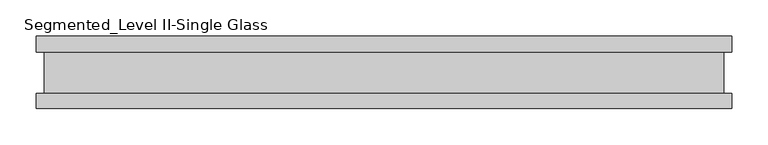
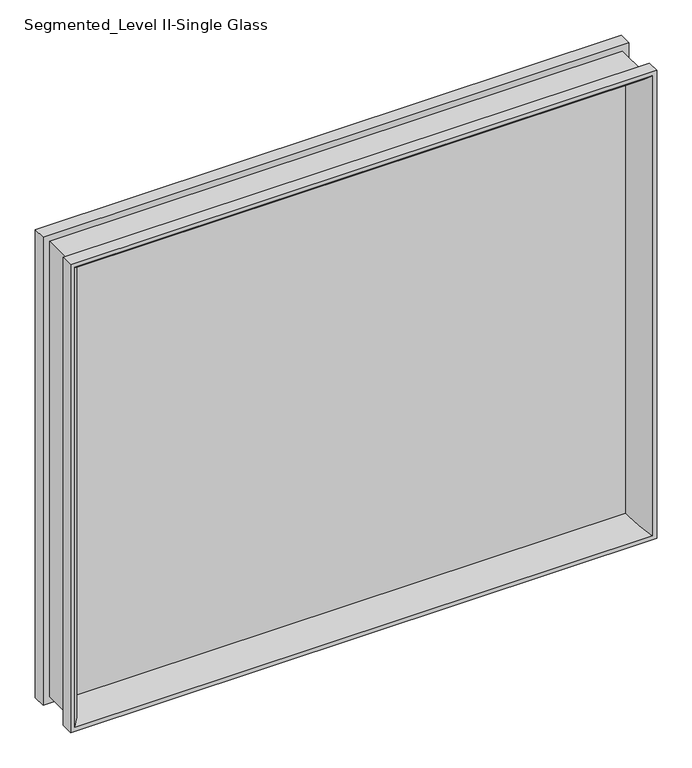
"""IFC4 building model written with IfcOpenShell, lengths in millimetres: proxy geometry, Panel-Fascia-Teknion-Altos-Single_Glass : Segmented_Level II-Single Glass."""

import ifcopenshell
import ifcopenshell.guid

model = None  # the IFC model being written
_history = None  # IfcOwnerHistory: only IFC2X3 demands one
_inside = {}  # id of a spatial element -> (the spatial element, [elements in it])
_under = {}  # id of a project, library or spatial element -> (it, [spatial elements below it])
_declared = {}  # id of a project -> (the project, [libraries it declares])
_typed = {}  # id of a type object -> (the type object, [elements of that type])
_made_of = {}  # id of a material, layer set ... -> (it, [elements and type objects made of it])


def new_model(schema):
    """Start an empty IFC model of exactly this schema.

    Asked for "IFC4X3", IfcOpenShell would pick the latest addendum, in which some entities
    have other attributes; the version numbers below select the first issue.
    IFC2X3 requires an IfcOwnerHistory on every rooted entity: one is made here for all.
    """
    global model, _history
    if schema == "IFC4X3":
        model = ifcopenshell.file(schema_version=(4, 3, 0, 0))
    else:
        model = ifcopenshell.file(schema=schema)
    _inside.clear()
    _under.clear()
    _declared.clear()
    _typed.clear()
    _made_of.clear()
    _history = None
    if model.schema == "IFC2X3":
        org = make("IfcOrganization", Name="unknown")
        user = make(
            "IfcPersonAndOrganization",
            ThePerson=make("IfcPerson", FamilyName="unknown"),
            TheOrganization=org,
        )
        app = make(
            "IfcApplication",
            ApplicationDeveloper=org,
            Version="unknown",
            ApplicationFullName="unknown",
            ApplicationIdentifier="unknown",
        )
        _history = make(
            "IfcOwnerHistory",
            OwningUser=user,
            OwningApplication=app,
            ChangeAction="ADDED",
            CreationDate=0,
        )
    return model


def make(cls, **values):
    """One entity of the class cls with the attributes given. An attribute that is None is left unset."""
    return model.create_entity(
        cls, **{name: value for name, value in values.items() if value is not None}
    )


def rooted(cls, **values):
    """An entity with a GlobalId (a new one), such as an element, a storey or a relation."""
    return make(cls, GlobalId=ifcopenshell.guid.new(), OwnerHistory=_history, **values)


def si_unit(unit_type, name, prefix=None):
    """IfcSIUnit, for example si_unit("LENGTHUNIT", "METRE", prefix="MILLI")."""
    return make("IfcSIUnit", UnitType=unit_type, Prefix=prefix, Name=name)


def assignment(units):
    """IfcUnitAssignment: the units of a project."""
    return None if units is None else make("IfcUnitAssignment", Units=units)


def point(xyz):
    """IfcCartesianPoint."""
    return None if xyz is None else make("IfcCartesianPoint", Coordinates=xyz)


def direction(xyz):
    """IfcDirection."""
    return None if xyz is None else make("IfcDirection", DirectionRatios=xyz)


def frame(location, z_axis=None, x_axis=None):
    """IfcAxis2Placement3D, a coordinate frame: its origin and axes. An axis left out is left unset."""
    return make(
        "IfcAxis2Placement3D",
        Location=point(location),
        Axis=direction(z_axis),
        RefDirection=direction(x_axis),
    )


def origin():
    """The frame at (0, 0, 0) with its axes left unset."""
    return frame((0.0, 0.0, 0.0))


def place(relative_to, where):
    """IfcLocalPlacement: puts the frame where relative to a parent placement (None: the world)."""
    return make(
        "IfcLocalPlacement", PlacementRelTo=relative_to, RelativePlacement=where
    )


def context(
    kind, dimensions, precision=None, world=None, true_north=None, identifier=None
):
    """IfcGeometricRepresentationContext, for example the 3D "Model" context."""
    return make(
        "IfcGeometricRepresentationContext",
        ContextIdentifier=identifier,
        ContextType=kind,
        CoordinateSpaceDimension=dimensions,
        Precision=precision,
        WorldCoordinateSystem=world,
        TrueNorth=true_north,
    )


def project(units=None, contexts=None):
    """IfcProject with its units and contexts."""
    return rooted(
        "IfcProject",
        Name="project",
        RepresentationContexts=contexts,
        UnitsInContext=assignment(units),
    )


def spatial(cls, under=None, at=None, **own):
    """A site, building, storey or space (cls), placed at a placement, below another one or the project."""
    s = rooted(cls, ObjectPlacement=at, **own)
    if under is not None:
        _under.setdefault(under.id(), (under, []))[1].append(s)
    return s


def polyline(points):
    """IfcPolyline through the points."""
    return make("IfcPolyline", Points=[point(p) for p in points])


def ellipse_curve(where, semi_axis1, semi_axis2):
    """IfcEllipse in the frame where."""
    return make(
        "IfcEllipse", Position=where, SemiAxis1=semi_axis1, SemiAxis2=semi_axis2
    )


def outline(outer, holes=None, kind="AREA"):
    """IfcArbitraryClosedProfileDef: a profile drawn as a closed curve; with holes, ...WithVoids."""
    if holes is None:
        return make("IfcArbitraryClosedProfileDef", ProfileType=kind, OuterCurve=outer)
    return make(
        "IfcArbitraryProfileDefWithVoids",
        ProfileType=kind,
        OuterCurve=outer,
        InnerCurves=holes,
    )


def extrude(swept, where, along, depth):
    """IfcExtrudedAreaSolid: the profile swept, set in the frame where, extruded along a direction by depth."""
    return make(
        "IfcExtrudedAreaSolid",
        SweptArea=swept,
        Position=where,
        ExtrudedDirection=direction(along),
        Depth=depth,
    )


def shape(context_of_items, identifier, shape_type, items):
    """IfcShapeRepresentation: the items that make up one representation, for example the "Body"."""
    return make(
        "IfcShapeRepresentation",
        ContextOfItems=context_of_items,
        RepresentationIdentifier=identifier,
        RepresentationType=shape_type,
        Items=items,
    )


def source(mapping_origin, context_of_items, identifier, shape_type, items):
    """IfcRepresentationMap: a shape defined once, which mapped items show again and again."""
    return make(
        "IfcRepresentationMap",
        MappingOrigin=mapping_origin,
        MappedRepresentation=shape(context_of_items, identifier, shape_type, items),
    )


def transform(
    local_origin,
    x_axis=None,
    y_axis=None,
    z_axis=None,
    scale=None,
    scale2=None,
    scale3=None,
    uniform=True,
):
    """IfcCartesianTransformationOperator3D, or its non-uniform kind. x_axis, y_axis, z_axis: its Axis1, 2, 3."""
    if uniform:
        return make(
            "IfcCartesianTransformationOperator3D",
            Axis1=direction(x_axis),
            Axis2=direction(y_axis),
            LocalOrigin=point(local_origin),
            Scale=scale,
            Axis3=direction(z_axis),
        )
    return make(
        "IfcCartesianTransformationOperator3DnonUniform",
        Axis1=direction(x_axis),
        Axis2=direction(y_axis),
        LocalOrigin=point(local_origin),
        Scale=scale,
        Axis3=direction(z_axis),
        Scale2=scale2,
        Scale3=scale3,
    )


def mapped(mapping_source, mapping_target):
    """IfcMappedItem: shows the shape of a source again, moved by a transform."""
    return make(
        "IfcMappedItem", MappingSource=mapping_source, MappingTarget=mapping_target
    )


def made_of(thing, what):
    """Note that an element or type object is made of a material, layer set ...; save() writes the relation."""
    if what is not None:
        _made_of.setdefault(what.id(), (what, []))[1].append(thing)
    return thing


def element(
    cls,
    number,
    at=None,
    inside=None,
    cuts=None,
    type_object=None,
    material=None,
    context=None,
    identifier="Body",
    shape_type=None,
    held_by="IfcProductDefinitionShape",
    body=None,
    shapes=None,
    **own,
):
    """One element of the class cls, such as IfcWall. Its Tag is "e" and its number.

    at: its placement. inside: the storey or other place that contains it. cuts: it is an
    opening in that element (IfcRelVoidsElement). A single representation is given by context,
    identifier, shape_type and body (its items); several are given by shapes. held_by: the class
    of the entity that holds the representations. save() writes the other relations.
    """
    e = rooted(cls, Tag="e%d" % number, ObjectPlacement=at, **own)
    if body is not None:
        shapes = [shape(context, identifier, shape_type, body)]
    if shapes is not None:
        e.Representation = make(held_by, Representations=shapes)
    if inside is not None:
        _inside.setdefault(inside.id(), (inside, []))[1].append(e)
    if cuts is not None:
        rooted(
            "IfcRelVoidsElement", RelatingBuildingElement=cuts, RelatedOpeningElement=e
        )
    if type_object is not None:
        _typed.setdefault(type_object.id(), (type_object, []))[1].append(e)
    return made_of(e, material)


def aggregate(whole, parts):
    """IfcRelAggregates: a whole, such as a stair, and the parts it consists of."""
    return rooted("IfcRelAggregates", RelatingObject=whole, RelatedObjects=parts)


def save(model, path):
    """Write the relations noted so far, then the file.

    IfcRelAggregates (storeys below a building ...), IfcRelContainedInSpatialStructure (elements
    in a storey), IfcRelDefinesByType, IfcRelAssociatesMaterial and IfcRelDeclares: one each for
    every whole, place, type object, material and project.
    """
    for whole, parts in _under.values():
        aggregate(whole, parts)
    for where, things in _inside.values():
        rooted(
            "IfcRelContainedInSpatialStructure",
            RelatedElements=things,
            RelatingStructure=where,
        )
    for kind, things in _typed.values():
        rooted("IfcRelDefinesByType", RelatedObjects=things, RelatingType=kind)
    for what, things in _made_of.values():
        rooted("IfcRelAssociatesMaterial", RelatedObjects=things, RelatingMaterial=what)
    for by, libraries in _declared.values():
        rooted("IfcRelDeclares", RelatingContext=by, RelatedDefinitions=libraries)
    model.write(path)


def plane_surface(at):
    """IfcPlane: the flat surface through the origin of the frame at, square to its z axis."""
    return make("IfcPlane", Position=at)


def cylinder_surface(at, radius):
    """IfcCylindricalSurface: all points at the distance radius from the z axis of the frame at."""
    return make("IfcCylindricalSurface", Position=at, Radius=radius)


def advanced_brep(points, edges, surfaces, faces):
    """IfcAdvancedBrep: a solid bounded by faces that lie on surfaces and meet in shared edges.

    An edge is (start, end): straight between two places in points (the first is 0);
    or (start, end, curve); or (start, end, curve, False) where it runs against its curve.
    A face is (place in surfaces, loops), or (place, loops, False) where it looks against
    its surface's normal. A loop lists edges by number (the first is 1), with a minus sign
    where the edge is run from its end to its start. The first loop is the outer one.
    """
    corners = [point(p) for p in points]
    vertices = [make("IfcVertexPoint", VertexGeometry=c) for c in corners]
    made = []
    for start, end, *more in edges:
        made.append(
            make(
                "IfcEdgeCurve",
                EdgeStart=vertices[start],
                EdgeEnd=vertices[end],
                EdgeGeometry=more[0] if more else make("IfcPolyline", Points=[corners[start], corners[end]]),
                SameSense=more[1] if len(more) > 1 else True,
            )
        )
    hull = []
    for where, loops, *sense in faces:
        bounds = []
        for j, loop in enumerate(loops):
            ring = [make("IfcOrientedEdge", EdgeElement=made[abs(k) - 1], Orientation=k > 0) for k in loop]
            bounds.append(
                make(
                    "IfcFaceOuterBound" if j == 0 else "IfcFaceBound",
                    Bound=make("IfcEdgeLoop", EdgeList=ring),
                    Orientation=True,
                )
            )
        hull.append(make("IfcAdvancedFace", Bounds=bounds, FaceSurface=surfaces[where], SameSense=sense[0] if sense else True))
    return make("IfcAdvancedBrep", Outer=make("IfcClosedShell", CfsFaces=hull))


def segmented_level_ii_single_glass_8e03ea76(model_context):
    return source(origin(), model_context, "Body", "SolidModel", [
        advanced_brep(
        [(454.4778894, 5.0827449, 787.2123332), (472.4327398, 50.0558594, 805.1671836), (472.4327398, 50.0558594, 10.1728164), (454.4778894, 5.0827449, 28.1276668), (464.9680805, -5.0827449, 797.7025243), (464.9680805, 5.0827449, 797.7025243), (464.9680805, 5.0827449, 17.6374757), (464.9680805, -5.0827449, 17.6374757), (472.4327398, -50.0558594, 805.1671836), (454.4778894, -5.0827449, 787.2123332), (454.4778894, -5.0827449, 28.1276668), (472.4327398, -50.0558594, 10.1728164), (479.4305563, -28.8801202, 812.165), (479.4305563, -50.0558594, 812.165), (479.4305563, -50.0558594, 3.175), (479.4305563, -28.8801202, 3.175), (468.6055563, 28.2698798, 801.3400001), (468.6055563, -28.8801202, 801.3400001), (468.6055563, -28.8801202, 13.9999999), (468.6055563, 28.2698798, 13.9999999), (479.4305563, 50.0558594, 812.165), (479.4305563, 28.2698798, 812.165), (479.4305563, 28.2698798, 3.175), (479.4305563, 50.0558594, 3.175), (-472.4327398, 50.0558594, 10.1728164), (-454.4778894, 5.0827449, 28.1276668), (-464.9680805, 5.0827449, 17.6374757), (-464.9680805, -5.0827449, 17.6374757), (-454.4778894, -5.0827449, 28.1276668), (-472.4327398, -50.0558594, 10.1728164), (-479.4305562, -50.0558594, 3.175), (-479.4305562, -28.8801202, 3.175), (-468.6055563, -28.8801202, 13.9999999), (-468.6055563, 28.2698798, 13.9999999), (-479.4305562, 28.2698798, 3.175), (-479.4305562, 50.0558594, 3.175), (-472.4327398, 50.0558594, 805.1671836), (-454.4778894, 5.0827449, 787.2123332), (-464.9680805, 5.0827449, 797.7025243), (-464.9680805, -5.0827449, 797.7025243), (-454.4778894, -5.0827449, 787.2123332), (-472.4327398, -50.0558594, 805.1671836), (-479.4305562, -50.0558594, 812.165), (-479.4305562, -28.8801202, 812.165), (-468.6055563, -28.8801202, 801.3400001), (-468.6055563, 28.2698798, 801.3400001), (-479.4305562, 28.2698798, 812.165), (-479.4305562, 50.0558594, 812.165)],
        [
            (0, 1, ellipse_curve(frame((506.5641268, 10.3587469, 839.2985705), z_axis=(0.7071067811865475, 0.0, -0.7071067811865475), x_axis=(0.7071067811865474, 0.0, 0.7071067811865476)), 74.0379946, 52.352768)),
            (1, 2),
            (2, 3, ellipse_curve(frame((506.5641268, 10.3587469, -23.9585705), z_axis=(0.7071067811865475, 0.0, 0.7071067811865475), x_axis=(-0.7071067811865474, 0.0, 0.7071067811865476)), 74.0379946, 52.352768)),
            (3, 0),
            (4, 5),
            (5, 6),
            (6, 7),
            (7, 4),
            (8, 9, ellipse_curve(frame((506.5641268, -10.3587469, 839.2985705), z_axis=(0.7071067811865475, 0.0, -0.7071067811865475), x_axis=(0.7071067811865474, 0.0, 0.7071067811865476)), 74.0379946, 52.352768)),
            (9, 10),
            (10, 11, ellipse_curve(frame((506.5641268, -10.3587469, -23.9585705), z_axis=(0.7071067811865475, 0.0, 0.7071067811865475), x_axis=(-0.7071067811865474, 0.0, 0.7071067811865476)), 74.0379946, 52.352768)),
            (11, 8),
            (12, 13),
            (13, 14),
            (14, 15),
            (15, 12),
            (16, 17),
            (17, 18),
            (18, 19),
            (19, 16),
            (20, 21),
            (21, 22),
            (22, 23),
            (23, 20),
            (2, 24),
            (24, 25, ellipse_curve(frame((-506.5641268, 10.3587469, -23.9585705), z_axis=(0.7071067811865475, 0.0, -0.7071067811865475), x_axis=(0.7071067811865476, 0.0, 0.7071067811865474)), 74.0379946, 52.352768)),
            (25, 3),
            (6, 26),
            (26, 27),
            (27, 7),
            (10, 28),
            (28, 29, ellipse_curve(frame((-506.5641268, -10.3587469, -23.9585705), z_axis=(0.7071067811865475, 0.0, -0.7071067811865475), x_axis=(0.7071067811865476, 0.0, 0.7071067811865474)), 74.0379946, 52.352768)),
            (29, 11),
            (14, 30),
            (30, 31),
            (31, 15),
            (18, 32),
            (32, 33),
            (33, 19),
            (22, 34),
            (34, 35),
            (35, 23),
            (24, 36),
            (36, 37, ellipse_curve(frame((-506.5641268, 10.3587469, 839.2985705), z_axis=(-0.7071067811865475, 0.0, -0.7071067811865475), x_axis=(0.7071067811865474, 0.0, -0.7071067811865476)), 74.0379946, 52.352768)),
            (37, 25),
            (26, 38),
            (38, 39),
            (39, 27),
            (28, 40),
            (40, 41, ellipse_curve(frame((-506.5641268, -10.3587469, 839.2985705), z_axis=(-0.7071067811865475, 0.0, -0.7071067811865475), x_axis=(0.7071067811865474, 0.0, -0.7071067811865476)), 74.0379946, 52.352768)),
            (41, 29),
            (30, 42),
            (42, 43),
            (43, 31),
            (32, 44),
            (44, 45),
            (45, 33),
            (34, 46),
            (46, 47),
            (47, 35),
            (47, 20),
            (1, 36),
            (0, 37),
            (5, 38),
            (4, 39),
            (9, 40),
            (8, 41),
            (13, 42),
            (12, 43),
            (17, 44),
            (16, 45),
            (21, 46),
        ],
        [
            cylinder_surface(frame((506.5641268, 10.3587469, 812.165), z_axis=(0.0, 0.0, 1.0), x_axis=(1.0, 0.0, 0.0)), 52.352768),
            plane_surface(frame((464.9680805, 5.0827449, 797.7025243), z_axis=(-1.0, 0.0, 0.0), x_axis=(0.0, 0.0, -1.0))),
            cylinder_surface(frame((506.5641268, -10.3587469, 812.165), z_axis=(0.0, 0.0, 1.0), x_axis=(1.0, 0.0, 0.0)), 52.352768),
            plane_surface(frame((479.4305563, -50.0558594, 812.165), z_axis=(1.0, 0.0, 0.0), x_axis=(0.0, 0.0, -1.0))),
            plane_surface(frame((468.6055563, -28.8801202, 801.3400001), z_axis=(1.0, 0.0, 0.0), x_axis=(0.0, 0.0, -1.0))),
            plane_surface(frame((479.4305563, 28.2698798, 812.165), z_axis=(1.0, 0.0, 0.0), x_axis=(0.0, 0.0, -1.0))),
            cylinder_surface(frame((479.4305563, 10.3587469, -23.9585705), z_axis=(1.0, 0.0, 0.0), x_axis=(0.0, 0.0, -1.0)), 52.352768),
            plane_surface(frame((464.9680805, 5.0827449, 17.6374757), z_axis=(0.0, 0.0, 1.0), x_axis=(-1.0, 0.0, 0.0))),
            cylinder_surface(frame((479.4305563, -10.3587469, -23.9585705), z_axis=(1.0, 0.0, 0.0), x_axis=(0.0, 0.0, -1.0)), 52.352768),
            plane_surface(frame((479.4305563, -50.0558594, 3.175), z_axis=(0.0, 0.0, -1.0), x_axis=(-1.0, 0.0, 0.0))),
            plane_surface(frame((468.6055563, -28.8801202, 13.9999999), z_axis=(0.0, 0.0, -1.0), x_axis=(-1.0, 0.0, 0.0))),
            plane_surface(frame((479.4305563, 28.2698798, 3.175), z_axis=(0.0, 0.0, -1.0), x_axis=(-1.0, 0.0, 0.0))),
            cylinder_surface(frame((-506.5641268, 10.3587469, 3.175), z_axis=(0.0, 0.0, -1.0), x_axis=(-1.0, 0.0, 0.0)), 52.352768),
            plane_surface(frame((-464.9680805, 5.0827449, 17.6374757), z_axis=(1.0, 0.0, 0.0), x_axis=(0.0, 0.0, 1.0))),
            cylinder_surface(frame((-506.5641268, -10.3587469, 3.175), z_axis=(0.0, 0.0, -1.0), x_axis=(-1.0, 0.0, 0.0)), 52.352768),
            plane_surface(frame((-479.4305562, -50.0558594, 3.175), z_axis=(-1.0, 0.0, 0.0), x_axis=(0.0, 0.0, 1.0))),
            plane_surface(frame((-468.6055563, -28.8801202, 13.9999999), z_axis=(-1.0, 0.0, 0.0), x_axis=(0.0, 0.0, 1.0))),
            plane_surface(frame((-479.4305562, 28.2698798, 3.175), z_axis=(-1.0, 0.0, 0.0), x_axis=(0.0, 0.0, 1.0))),
            plane_surface(frame((-479.4305562, 50.0558594, 812.165), z_axis=(0.0, 1.0, 0.0), x_axis=(1.0, 0.0, 0.0))),
            cylinder_surface(frame((-479.4305562, 10.3587469, 839.2985705), z_axis=(-1.0, 0.0, 0.0), x_axis=(0.0, 0.0, 1.0)), 52.352768),
            plane_surface(frame((-454.4778894, 5.0827449, 787.2123332), z_axis=(0.0, -1.0, 0.0), x_axis=(1.0, 0.0, 0.0))),
            plane_surface(frame((-464.9680805, 5.0827449, 797.7025243), z_axis=(0.0, 0.0, -1.0), x_axis=(1.0, 0.0, 0.0))),
            plane_surface(frame((-464.9680805, -5.0827449, 797.7025243), z_axis=(0.0, 1.0, 0.0), x_axis=(1.0, 0.0, 0.0))),
            cylinder_surface(frame((-479.4305562, -10.3587469, 839.2985705), z_axis=(-1.0, 0.0, 0.0), x_axis=(0.0, 0.0, 1.0)), 52.352768),
            plane_surface(frame((-472.4327398, -50.0558594, 805.1671836), z_axis=(0.0, -1.0, 0.0), x_axis=(1.0, 0.0, 0.0))),
            plane_surface(frame((-479.4305562, -50.0558594, 812.165), z_axis=(0.0, 0.0, 1.0), x_axis=(1.0, 0.0, 0.0))),
            plane_surface(frame((-479.4305562, -28.8801202, 812.165), z_axis=(0.0, 1.0, 0.0), x_axis=(1.0, 0.0, 0.0))),
            plane_surface(frame((-468.6055563, -28.8801202, 801.3400001), z_axis=(0.0, 0.0, 1.0), x_axis=(1.0, 0.0, 0.0))),
            plane_surface(frame((-468.6055563, 28.2698798, 801.3400001), z_axis=(0.0, -1.0, 0.0), x_axis=(1.0, 0.0, 0.0))),
            plane_surface(frame((-479.4305562, 28.2698798, 812.165), z_axis=(0.0, 0.0, 1.0), x_axis=(1.0, 0.0, 0.0))),
        ],
        [
            (0, [[1, 2, 3, 4]]),
            (1, [[5, 6, 7, 8]]),
            (2, [[9, 10, 11, 12]]),
            (3, [[13, 14, 15, 16]]),
            (4, [[17, 18, 19, 20]]),
            (5, [[21, 22, 23, 24]]),
            (6, [[-3, 25, 26, 27]]),
            (7, [[-7, 28, 29, 30]]),
            (8, [[-11, 31, 32, 33]]),
            (9, [[-15, 34, 35, 36]]),
            (10, [[-19, 37, 38, 39]]),
            (11, [[-23, 40, 41, 42]]),
            (12, [[-26, 43, 44, 45]]),
            (13, [[-29, 46, 47, 48]]),
            (14, [[-32, 49, 50, 51]]),
            (15, [[-35, 52, 53, 54]]),
            (16, [[-38, 55, 56, 57]]),
            (17, [[-41, 58, 59, 60]]),
            (18, [[-42, -60, 61, -24], [62, -43, -25, -2]]),
            (19, [[-44, -62, -1, 63]]),
            (20, [[64, -46, -28, -6], [-27, -45, -63, -4]]),
            (21, [[-47, -64, -5, 65]]),
            (22, [[-30, -48, -65, -8], [66, -49, -31, -10]]),
            (23, [[-50, -66, -9, 67]]),
            (24, [[68, -52, -34, -14], [-33, -51, -67, -12]]),
            (25, [[-53, -68, -13, 69]]),
            (26, [[-36, -54, -69, -16], [70, -55, -37, -18]]),
            (27, [[-56, -70, -17, 71]]),
            (28, [[72, -58, -40, -22], [-39, -57, -71, -20]]),
            (29, [[-59, -72, -21, -61]]),
        ],
    ),
        extrude(outline(polyline([(464.9680805, 2.9765625), (464.9680805, -2.9765625), (-464.9680805, -2.9765625), (-464.9680805, 2.9765625), (464.9680805, 2.9765625)])), frame((0.0, 0.0, 17.6374757), z_axis=(0.0, 0.0, 1.0), x_axis=(1.0, 0.0, 0.0)), (0.0, 0.0, 1.0), 780.0650485),
    ])


if __name__ == "__main__":
    model = new_model("IFC4")
    model_context = context("Model", 3, world=origin())
    ifc_project = project(units=[si_unit("LENGTHUNIT", "METRE", prefix="MILLI")], contexts=[model_context])
    site = spatial("IfcSite", under=ifc_project)
    building = spatial("IfcBuilding", under=site)
    placement = place(None, origin())
    segmented_level_ii_single_glass_shape = segmented_level_ii_single_glass_8e03ea76(model_context)
    element("IfcBuildingElementProxy", 1, Name="Panel-Fascia-Teknion-Altos-Single_Glass : Segmented_Level II-Single Glass", ObjectType="Panel-Fascia-Teknion-Altos-Single_Glass : Segmented_Level II-Single Glass", at=placement, inside=building, context=model_context, shape_type="MappedRepresentation", body=[
        mapped(segmented_level_ii_single_glass_shape, transform((0.0, 0.0, 0.0), x_axis=(1.0, 0.0, 0.0), y_axis=(0.0, 1.0, 0.0), z_axis=(0.0, 0.0, 1.0))),
    ])
    save(model, "model.ifc")
